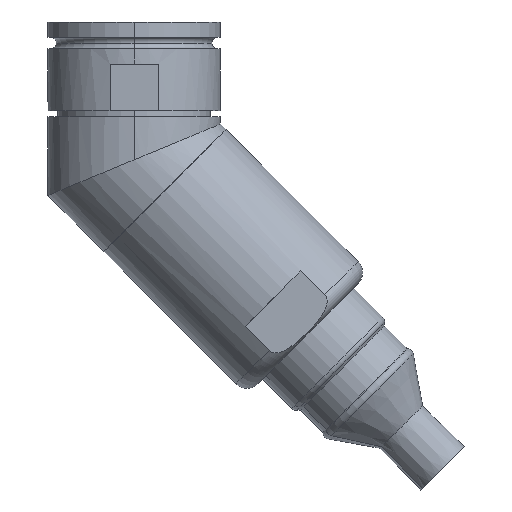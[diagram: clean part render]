
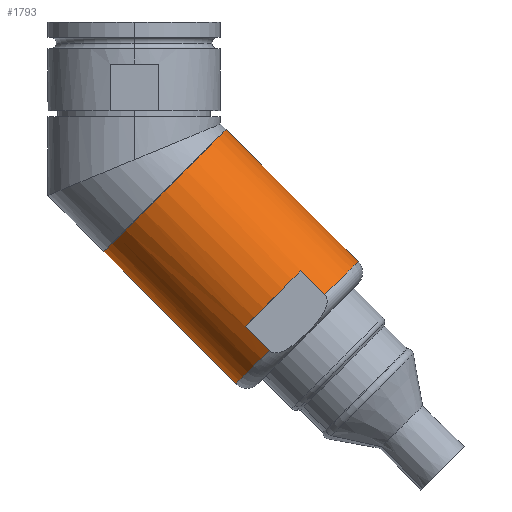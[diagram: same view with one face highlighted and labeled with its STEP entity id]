
A CAD part, left-side view. The second image highlights one B-rep face of the part: STEP entity #1793.
In plain terms, the highlighted cylindrical face has radius 17.691 mm (diameter 35.382 mm), a partial arc.
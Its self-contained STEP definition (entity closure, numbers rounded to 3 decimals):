
#82 = VERTEX_POINT ( 'NONE', #8170 ) ;
#278 = EDGE_CURVE ( 'NONE', #3271, #7100, #4756, .T. ) ;
#1070 = EDGE_CURVE ( 'NONE', #2802, #6762, #6199, .T. ) ;
#1165 = VERTEX_POINT ( 'NONE', #4384 ) ;
#1213 = DIRECTION ( 'NONE',  ( 0., -0.707, -0.707 ) ) ;
#1256 = ORIENTED_EDGE ( 'NONE', *, *, #4374, .F. ) ;
#1597 = AXIS2_PLACEMENT_3D ( 'NONE', #5742, #8139, #5085 ) ;
#1733 = EDGE_CURVE ( 'NONE', #3271, #6211, #3362, .T. ) ;
#1777 = CIRCLE ( 'NONE', #6146, 17.691 ) ;
#1793 = ADVANCED_FACE ( 'NONE', ( #7297 ), #8020, .T. ) ;
#1801 = DIRECTION ( 'NONE',  ( 0., -0.707, 0.707 ) ) ;
#1967 = VECTOR ( 'NONE', #7470, 1000. ) ;
#2644 = CARTESIAN_POINT ( 'NONE',  ( 0., 6.16, -41.426 ) ) ;
#2713 = AXIS2_PLACEMENT_3D ( 'NONE', #7182, #6549, #7814 ) ;
#2733 = DIRECTION ( 'NONE',  ( 0., 0.707, 0.707 ) ) ;
#2802 = VERTEX_POINT ( 'NONE', #5107 ) ;
#2810 = AXIS2_PLACEMENT_3D ( 'NONE', #6318, #4498, #6445 ) ;
#3106 = CIRCLE ( 'NONE', #2713, 17.691 ) ;
#3259 = CARTESIAN_POINT ( 'NONE',  ( 0., 6.16, -41.426 ) ) ;
#3271 = VERTEX_POINT ( 'NONE', #4399 ) ;
#3362 = LINE ( 'NONE', #2644, #7169 ) ;
#3433 = EDGE_CURVE ( 'NONE', #1165, #82, #5217, .T. ) ;
#3708 = VECTOR ( 'NONE', #7319, 1000. ) ;
#3757 = CARTESIAN_POINT ( 'NONE',  ( -15.748, -34.14, -45.309 ) ) ;
#4203 = LINE ( 'NONE', #7281, #3708 ) ;
#4230 = ORIENTED_EDGE ( 'NONE', *, *, #6304, .F. ) ;
#4374 = EDGE_CURVE ( 'NONE', #2802, #5283, #1777, .T. ) ;
#4384 = CARTESIAN_POINT ( 'NONE',  ( 0., -45.889, -43.438 ) ) ;
#4399 = CARTESIAN_POINT ( 'NONE',  ( 0., -20.87, -68.457 ) ) ;
#4437 = ORIENTED_EDGE ( 'NONE', *, *, #1733, .F. ) ;
#4498 = DIRECTION ( 'NONE',  ( 0., 0.707, 0.707 ) ) ;
#4566 = ORIENTED_EDGE ( 'NONE', *, *, #1070, .T. ) ;
#4631 = EDGE_CURVE ( 'NONE', #6762, #1165, #3106, .T. ) ;
#4680 = VECTOR ( 'NONE', #7777, 1000. ) ;
#4756 = CIRCLE ( 'NONE', #2810, 17.691 ) ;
#4804 = ORIENTED_EDGE ( 'NONE', *, *, #278, .T. ) ;
#4844 = CARTESIAN_POINT ( 'NONE',  ( -15.748, -39.079, -50.248 ) ) ;
#4873 = CARTESIAN_POINT ( 'NONE',  ( -15.748, -27.68, -61.647 ) ) ;
#5085 = DIRECTION ( 'NONE',  ( 0., -0.707, 0.707 ) ) ;
#5107 = CARTESIAN_POINT ( 'NONE',  ( -15.748, -34.14, -45.309 ) ) ;
#5217 = LINE ( 'NONE', #7139, #4680 ) ;
#5283 = VERTEX_POINT ( 'NONE', #6952 ) ;
#5570 = CIRCLE ( 'NONE', #1597, 17.691 ) ;
#5643 = CARTESIAN_POINT ( 'NONE',  ( 0., -28.44, -51.008 ) ) ;
#5669 = EDGE_LOOP ( 'NONE', ( #4437, #4804, #4230, #1256, #4566, #7648, #6750, #8204 ) ) ;
#5742 = CARTESIAN_POINT ( 'NONE',  ( 0., -6.349, -28.917 ) ) ;
#6078 = CARTESIAN_POINT ( 'NONE',  ( 0., -6.349, -28.917 ) ) ;
#6146 = AXIS2_PLACEMENT_3D ( 'NONE', #5643, #1213, #1801 ) ;
#6199 = LINE ( 'NONE', #3757, #1967 ) ;
#6211 = VERTEX_POINT ( 'NONE', #3259 ) ;
#6229 = AXIS2_PLACEMENT_3D ( 'NONE', #6078, #6711, #7471 ) ;
#6304 = EDGE_CURVE ( 'NONE', #5283, #7100, #4203, .T. ) ;
#6318 = CARTESIAN_POINT ( 'NONE',  ( 0., -33.38, -55.948 ) ) ;
#6445 = DIRECTION ( 'NONE',  ( 0., -0.707, 0.707 ) ) ;
#6549 = DIRECTION ( 'NONE',  ( 0., 0.707, 0.707 ) ) ;
#6711 = DIRECTION ( 'NONE',  ( 0., 0.707, 0.707 ) ) ;
#6750 = ORIENTED_EDGE ( 'NONE', *, *, #3433, .T. ) ;
#6762 = VERTEX_POINT ( 'NONE', #4844 ) ;
#6836 = EDGE_CURVE ( 'NONE', #6211, #82, #5570, .T. ) ;
#6952 = CARTESIAN_POINT ( 'NONE',  ( -15.748, -22.741, -56.708 ) ) ;
#7100 = VERTEX_POINT ( 'NONE', #4873 ) ;
#7139 = CARTESIAN_POINT ( 'NONE',  ( 0., -18.859, -16.407 ) ) ;
#7169 = VECTOR ( 'NONE', #2733, 1000. ) ;
#7182 = CARTESIAN_POINT ( 'NONE',  ( 0., -33.38, -55.948 ) ) ;
#7281 = CARTESIAN_POINT ( 'NONE',  ( -15.748, -22.741, -56.708 ) ) ;
#7297 = FACE_OUTER_BOUND ( 'NONE', #5669, .T. ) ;
#7319 = DIRECTION ( 'NONE',  ( 0., -0.707, -0.707 ) ) ;
#7470 = DIRECTION ( 'NONE',  ( 0., -0.707, -0.707 ) ) ;
#7471 = DIRECTION ( 'NONE',  ( 0., -0.707, 0.707 ) ) ;
#7648 = ORIENTED_EDGE ( 'NONE', *, *, #4631, .T. ) ;
#7777 = DIRECTION ( 'NONE',  ( 0., 0.707, 0.707 ) ) ;
#7814 = DIRECTION ( 'NONE',  ( 0., -0.707, 0.707 ) ) ;
#8020 = CYLINDRICAL_SURFACE ( 'NONE', #6229, 17.691 ) ;
#8139 = DIRECTION ( 'NONE',  ( 0., 0.707, 0.707 ) ) ;
#8170 = CARTESIAN_POINT ( 'NONE',  ( 0., -18.859, -16.407 ) ) ;
#8204 = ORIENTED_EDGE ( 'NONE', *, *, #6836, .F. ) ;
